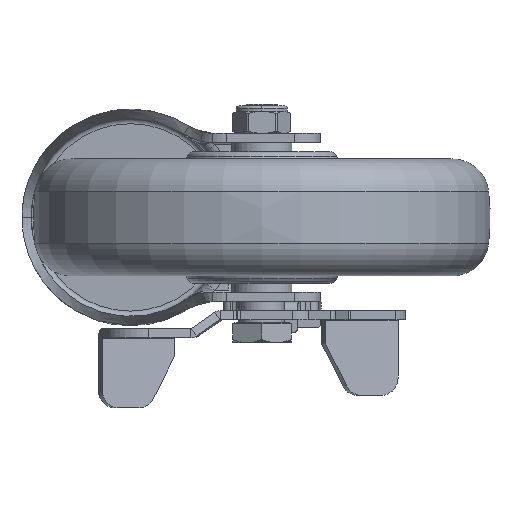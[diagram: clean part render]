
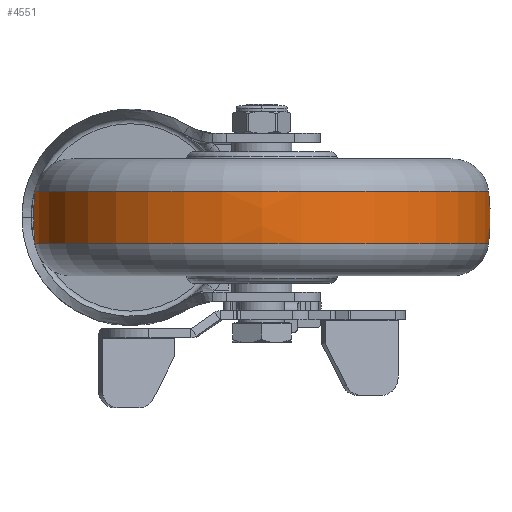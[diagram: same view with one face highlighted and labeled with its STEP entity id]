
A CAD part, front view. The second image highlights one B-rep face of the part: STEP entity #4551.
In plain terms, the highlighted free-form (B-spline) face has degree [3, 3] with [7, 4] control points.
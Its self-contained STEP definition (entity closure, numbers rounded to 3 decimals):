
#3943=CARTESIAN_POINT('',(-7.2,0.,0.));
#3944=DIRECTION('',(-1.,0.,0.));
#3945=DIRECTION('',(0.,1.,0.));
#3946=AXIS2_PLACEMENT_3D('',#3943,#3944,#3945);
#3958=CARTESIAN_POINT('',(0.,2.5,0.));
#3959=DIRECTION('',(0.,0.,1.));
#3960=DIRECTION('',(0.12,0.993,0.));
#3961=AXIS2_PLACEMENT_3D('',#3958,#3959,#3960);
#3963=CARTESIAN_POINT('',(0.,-2.5,0.));
#3964=DIRECTION('',(0.,0.,-1.));
#3965=DIRECTION('',(0.12,-0.993,0.));
#3966=AXIS2_PLACEMENT_3D('',#3963,#3964,#3965);
#3968=CARTESIAN_POINT('',(7.2,0.,0.));
#3969=DIRECTION('',(-1.,0.,0.));
#3970=DIRECTION('',(0.,1.,0.));
#3971=AXIS2_PLACEMENT_3D('',#3968,#3969,#3970);
#4192=CARTESIAN_POINT('',(-7.2,62.066,0.));
#4194=VERTEX_POINT('',#4192);
#4196=CARTESIAN_POINT('',(-7.2,-62.066,
0.));
#4198=VERTEX_POINT('',#4196);
#4225=CARTESIAN_POINT('',(7.2,62.066,0.));
#4227=VERTEX_POINT('',#4225);
#4229=CARTESIAN_POINT('',(7.2,-62.066,
0.));
#4231=VERTEX_POINT('',#4229);
#4515=CARTESIAN_POINT('',(-7.487,-61.909,
3.895));
#4516=CARTESIAN_POINT('',(-2.509,-62.533,
3.934));
#4517=CARTESIAN_POINT('',(2.509,-62.533,3.934));
#4518=CARTESIAN_POINT('',(7.487,-61.909,3.895));
#4519=CARTESIAN_POINT('',(-7.487,-64.306,
-34.204));
#4520=CARTESIAN_POINT('',(-2.509,-64.955,
-34.549));
#4521=CARTESIAN_POINT('',(2.509,-64.955,
-34.549));
#4522=CARTESIAN_POINT('',(7.487,-64.306,
-34.204));
#4523=CARTESIAN_POINT('',(-7.487,-38.174,
-62.031));
#4524=CARTESIAN_POINT('',(-2.509,-38.559,
-62.657));
#4525=CARTESIAN_POINT('',(2.509,-38.559,
-62.657));
#4526=CARTESIAN_POINT('',(7.487,-38.174,
-62.031));
#4527=CARTESIAN_POINT('',(-7.487,0.,
-62.031));
#4528=CARTESIAN_POINT('',(-2.509,0.,
-62.657));
#4529=CARTESIAN_POINT('',(2.509,0.,
-62.657));
#4530=CARTESIAN_POINT('',(7.487,0.,
-62.031));
#4531=CARTESIAN_POINT('',(-7.487,38.174,
-62.031));
#4532=CARTESIAN_POINT('',(-2.509,38.559,
-62.657));
#4533=CARTESIAN_POINT('',(2.509,38.559,-62.657));
#4534=CARTESIAN_POINT('',(7.487,38.174,-62.031));
#4535=CARTESIAN_POINT('',(-7.487,64.306,
-34.204));
#4536=CARTESIAN_POINT('',(-2.509,64.955,
-34.549));
#4537=CARTESIAN_POINT('',(2.509,64.955,-34.549));
#4538=CARTESIAN_POINT('',(7.487,64.306,-34.204));
#4539=CARTESIAN_POINT('',(-7.487,61.909,3.895));
#4540=CARTESIAN_POINT('',(-2.509,62.533,3.934));
#4541=CARTESIAN_POINT('',(2.509,62.533,3.934));
#4542=CARTESIAN_POINT('',(7.487,61.909,3.895));
#4543=(BOUNDED_SURFACE()B_SPLINE_SURFACE(3,3,((#4515,#4516,#4517,#4518),(#4519,
#4520,#4521,#4522),(#4523,#4524,#4525,#4526),(#4527,#4528,#4529,#4530),(#4531,
#4532,#4533,#4534),(#4535,#4536,#4537,#4538),(#4539,#4540,#4541,#4542)),
.UNSPECIFIED.,.F.,.F.,.F.)B_SPLINE_SURFACE_WITH_KNOTS((4,3,4),(4,4),(0.,1.,
2.),(0.,1.),.UNSPECIFIED.)GEOMETRIC_REPRESENTATION_ITEM()RATIONAL_B_SPLINE_SURFACE(((1.192,1.186,1.186,1.192),(
0.941,0.936,0.936,0.941),(
0.941,0.936,0.936,0.941),(
1.192,1.186,1.186,1.192),(
0.941,0.936,0.936,0.941),(
0.941,0.936,0.936,0.941),(
1.192,1.186,1.186,1.192)))REPRESENTATION_ITEM('')SURFACE());
#4544=ORIENTED_EDGE('',*,*,#4505,.T.);
#4545=ORIENTED_EDGE('',*,*,#4458,.T.);
#4546=ORIENTED_EDGE('',*,*,#4509,.F.);
#4548=ORIENTED_EDGE('',*,*,#4547,.F.);
#4549=EDGE_LOOP('',(#4544,#4545,#4546,#4548));
#4550=FACE_OUTER_BOUND('',#4549,.F.);
#3947=CIRCLE('',#3946,62.066);
#3962=CIRCLE('',#3961,60.);
#3967=CIRCLE('',#3966,60.);
#3972=CIRCLE('',#3971,62.066);
#4458=EDGE_CURVE('',#4194,#4198,#3947,.T.);
#4505=EDGE_CURVE('',#4227,#4194,#3962,.T.);
#4509=EDGE_CURVE('',#4231,#4198,#3967,.T.);
#4547=EDGE_CURVE('',#4227,#4231,#3972,.T.);
#4551=ADVANCED_FACE('',(#4550),#4543,.T.);
